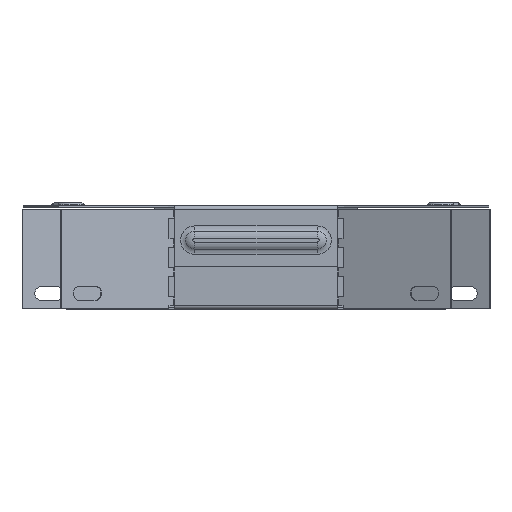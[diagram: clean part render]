
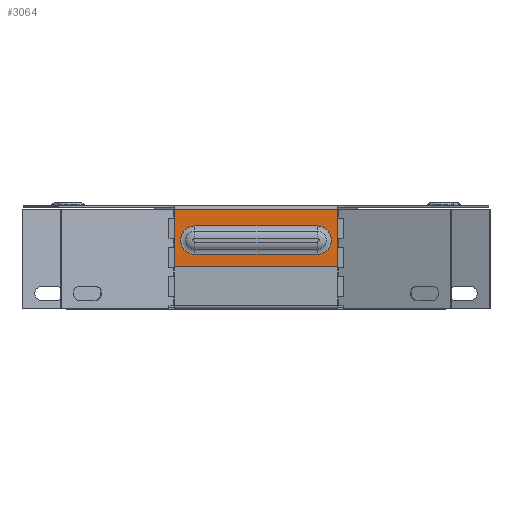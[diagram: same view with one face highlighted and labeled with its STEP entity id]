
A CAD part, top view. The second image highlights one B-rep face of the part: STEP entity #3064.
In plain terms, the highlighted planar face has unit normal (0, 0, 1).
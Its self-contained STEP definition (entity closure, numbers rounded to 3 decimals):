
#348 = DIRECTION ( 'NONE',  ( 0., 0., -1. ) ) ;
#532 = FACE_BOUND ( 'NONE', #5319, .T. ) ;
#654 = VERTEX_POINT ( 'NONE', #7156 ) ;
#661 = ORIENTED_EDGE ( 'NONE', *, *, #8590, .T. ) ;
#681 = DIRECTION ( 'NONE',  ( 1., 0., 0. ) ) ;
#851 = ORIENTED_EDGE ( 'NONE', *, *, #9963, .F. ) ;
#1064 = DIRECTION ( 'NONE',  ( 0., 0., -1. ) ) ;
#1289 = EDGE_CURVE ( 'NONE', #2246, #9598, #1693, .T. ) ;
#1556 = AXIS2_PLACEMENT_3D ( 'NONE', #14385, #348, #7239 ) ;
#1693 = CIRCLE ( 'NONE', #3888, 6.917 ) ;
#1998 = EDGE_CURVE ( 'NONE', #14763, #11696, #7198, .T. ) ;
#2021 = VECTOR ( 'NONE', #2535, 1000. ) ;
#2052 = CARTESIAN_POINT ( 'NONE',  ( 30., 26.983, 1.6 ) ) ;
#2155 = DIRECTION ( 'NONE',  ( 1., 0., 0. ) ) ;
#2246 = VERTEX_POINT ( 'NONE', #5945 ) ;
#2431 = ORIENTED_EDGE ( 'NONE', *, *, #1998, .T. ) ;
#2535 = DIRECTION ( 'NONE',  ( -1., 0., 0. ) ) ;
#3064 = ADVANCED_FACE ( 'NONE', ( #532, #5316 ), #5809, .F. ) ;
#3230 = AXIS2_PLACEMENT_3D ( 'NONE', #9382, #1064, #6981 ) ;
#3275 = ORIENTED_EDGE ( 'NONE', *, *, #11362, .T. ) ;
#3888 = AXIS2_PLACEMENT_3D ( 'NONE', #8397, #9577, #6011 ) ;
#4082 = DIRECTION ( 'NONE',  ( 1., 0., 0. ) ) ;
#4219 = CARTESIAN_POINT ( 'NONE',  ( 0., 49., 1.6 ) ) ;
#4534 = EDGE_CURVE ( 'NONE', #11972, #654, #9765, .T. ) ;
#4576 = DIRECTION ( 'NONE',  ( 0., 1., 0. ) ) ;
#4726 = CARTESIAN_POINT ( 'NONE',  ( 40., 20.8, 1.6 ) ) ;
#4754 = CARTESIAN_POINT ( 'NONE',  ( 40., 20.8, 1.6 ) ) ;
#5159 = LINE ( 'NONE', #9594, #2021 ) ;
#5254 = LINE ( 'NONE', #4219, #10585 ) ;
#5316 = FACE_OUTER_BOUND ( 'NONE', #8767, .T. ) ;
#5319 = EDGE_LOOP ( 'NONE', ( #14785, #6786, #3275, #10618 ) ) ;
#5539 = CARTESIAN_POINT ( 'NONE',  ( -40., 20.8, 1.6 ) ) ;
#5727 = CARTESIAN_POINT ( 'NONE',  ( -40., 20.8, 1.6 ) ) ;
#5809 = PLANE ( 'NONE',  #3230 ) ;
#5945 = CARTESIAN_POINT ( 'NONE',  ( 30., 40.817, 1.6 ) ) ;
#6011 = DIRECTION ( 'NONE',  ( 0., 1., 0. ) ) ;
#6147 = EDGE_CURVE ( 'NONE', #11696, #9034, #13040, .T. ) ;
#6405 = LINE ( 'NONE', #10341, #9145 ) ;
#6463 = CARTESIAN_POINT ( 'NONE',  ( 30., 40.817, 1.6 ) ) ;
#6621 = DIRECTION ( 'NONE',  ( 0., -1., 0. ) ) ;
#6786 = ORIENTED_EDGE ( 'NONE', *, *, #1289, .T. ) ;
#6981 = DIRECTION ( 'NONE',  ( 0., 1., 0. ) ) ;
#7156 = CARTESIAN_POINT ( 'NONE',  ( -30., 40.817, 1.6 ) ) ;
#7198 = LINE ( 'NONE', #5539, #8656 ) ;
#7239 = DIRECTION ( 'NONE',  ( 0., 1., 0. ) ) ;
#7658 = CARTESIAN_POINT ( 'NONE',  ( 40., 49., 1.6 ) ) ;
#8397 = CARTESIAN_POINT ( 'NONE',  ( 30., 33.9, 1.6 ) ) ;
#8590 = EDGE_CURVE ( 'NONE', #9034, #12295, #6405, .T. ) ;
#8656 = VECTOR ( 'NONE', #6621, 1000. ) ;
#8767 = EDGE_LOOP ( 'NONE', ( #851, #2431, #13127, #661 ) ) ;
#9034 = VERTEX_POINT ( 'NONE', #4726 ) ;
#9145 = VECTOR ( 'NONE', #4576, 1000. ) ;
#9382 = CARTESIAN_POINT ( 'NONE',  ( 0., 50.8, 1.6 ) ) ;
#9577 = DIRECTION ( 'NONE',  ( 0., 0., -1. ) ) ;
#9594 = CARTESIAN_POINT ( 'NONE',  ( 30., 26.983, 1.6 ) ) ;
#9598 = VERTEX_POINT ( 'NONE', #2052 ) ;
#9749 = CARTESIAN_POINT ( 'NONE',  ( -40., 49., 1.6 ) ) ;
#9765 = CIRCLE ( 'NONE', #1556, 6.917 ) ;
#9963 = EDGE_CURVE ( 'NONE', #14763, #12295, #5254, .T. ) ;
#10245 = EDGE_CURVE ( 'NONE', #654, #2246, #12297, .T. ) ;
#10341 = CARTESIAN_POINT ( 'NONE',  ( 40., 50., 1.6 ) ) ;
#10460 = VECTOR ( 'NONE', #4082, 1000. ) ;
#10585 = VECTOR ( 'NONE', #681, 1000. ) ;
#10618 = ORIENTED_EDGE ( 'NONE', *, *, #4534, .T. ) ;
#11362 = EDGE_CURVE ( 'NONE', #9598, #11972, #5159, .T. ) ;
#11696 = VERTEX_POINT ( 'NONE', #5727 ) ;
#11972 = VERTEX_POINT ( 'NONE', #12378 ) ;
#12295 = VERTEX_POINT ( 'NONE', #7658 ) ;
#12297 = LINE ( 'NONE', #6463, #10460 ) ;
#12378 = CARTESIAN_POINT ( 'NONE',  ( -30., 26.983, 1.6 ) ) ;
#12683 = VECTOR ( 'NONE', #2155, 1000. ) ;
#13040 = LINE ( 'NONE', #4754, #12683 ) ;
#13127 = ORIENTED_EDGE ( 'NONE', *, *, #6147, .T. ) ;
#14385 = CARTESIAN_POINT ( 'NONE',  ( -30., 33.9, 1.6 ) ) ;
#14763 = VERTEX_POINT ( 'NONE', #9749 ) ;
#14785 = ORIENTED_EDGE ( 'NONE', *, *, #10245, .T. ) ;
